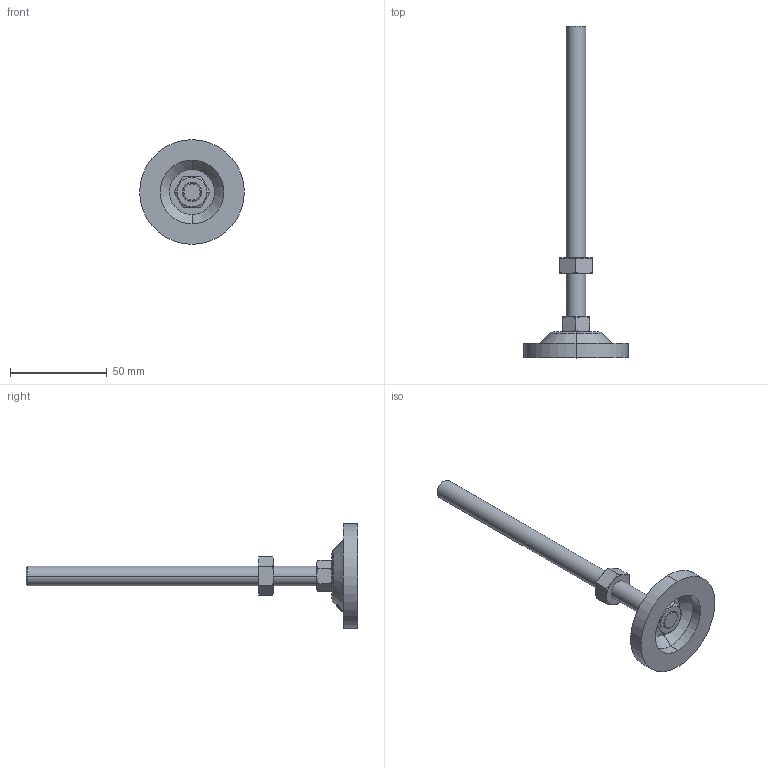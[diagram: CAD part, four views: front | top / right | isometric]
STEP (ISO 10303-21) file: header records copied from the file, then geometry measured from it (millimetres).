
FILE_DESCRIPTION (( 'STEP AP203' ), '1' );
FILE_NAME ('P-54-10150-BR.STEP', '2020-09-10T08:54:20', ( '' ), ( '' ), 'SwSTEP 2.0', 'SolidWorks 2016', '' );
FILE_SCHEMA (( 'CONFIG_CONTROL_DESIGN' ));
Length unit declared in the file: millimetre
Products named in the file (5): 傲郈蹟裝M10炵蹈_M10X150; 脚垫调节六角螺母M10; hex thin nuts-grades ab-chamfered gb_GB_FASTENER_NUT_STNAB M10-N; P-54-1菁釱-3P; P-54-10150-BR
Assembly tree (4 placements, depth 2):
  P-54-10150-BR
    P-54-1菁釱-3P
    傲郈蹟裝M10炵蹈_M10X150
    hex thin nuts-grades ab-chamfered gb_GB_FASTENER_NUT_STNAB M10-N
    脚垫调节六角螺母M10
Bounding box: 54 x 171.4 x 54 mm (x, y, z)
Volume: 29731.4 mm3; surface area: 19240.5 mm2
Topology: 5 solids, 5 shells, 145 faces, 336 edges, 212 vertices
Faces by surface type: cone 47, bspline 38, plane 34, cylinder 20, torus 6
Entity records: 7894 total; most frequent: CARTESIAN_POINT 4437, ORIENTED_EDGE 672, DIRECTION 488, EDGE_CURVE 336, VERTEX_POINT 212, AXIS2_PLACEMENT_3D 210, B_SPLINE_CURVE_WITH_KNOTS 172, EDGE_LOOP 164
